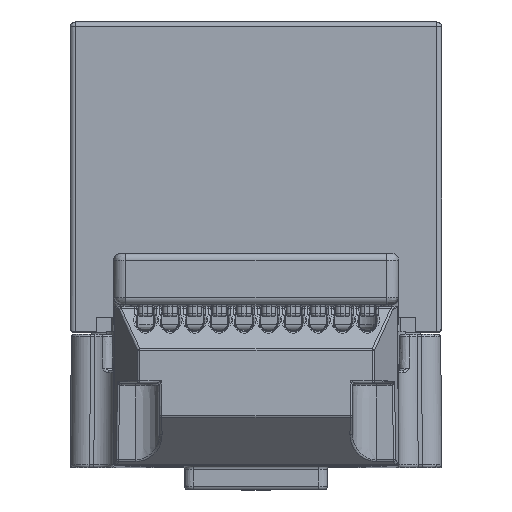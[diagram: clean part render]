
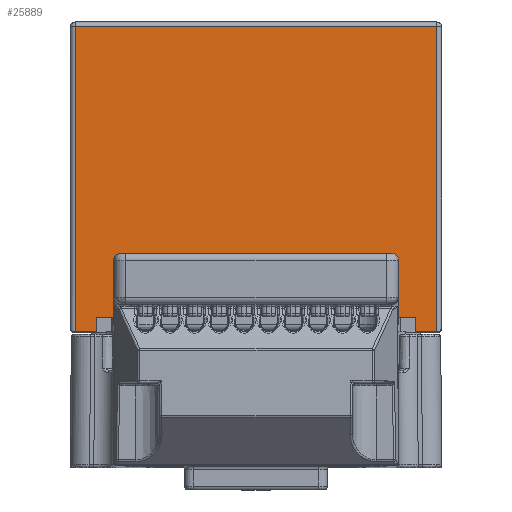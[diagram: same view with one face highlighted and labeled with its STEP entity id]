
A CAD part, top view. The second image highlights one B-rep face of the part: STEP entity #25889.
In plain terms, the highlighted planar face has unit normal (0, 0, 1) as drawn and (0, 0, -1) by its records, which use the part's own axes.
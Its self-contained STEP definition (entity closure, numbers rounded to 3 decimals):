
#336 = CARTESIAN_POINT ( 'NONE',  ( 7.68, 0., 0. ) ) ;
#965 = VECTOR ( 'NONE', #20914, 1000. ) ;
#4274 = LINE ( 'NONE', #19458, #39414 ) ;
#4732 = ORIENTED_EDGE ( 'NONE', *, *, #47329, .F. ) ;
#4908 = VECTOR ( 'NONE', #24649, 1000. ) ;
#7297 = LINE ( 'NONE', #336, #25683 ) ;
#11437 = EDGE_CURVE ( 'NONE', #72693, #12373, #71923, .T. ) ;
#12373 = VERTEX_POINT ( 'NONE', #15379 ) ;
#12499 = EDGE_CURVE ( 'NONE', #53976, #67898, #38665, .T. ) ;
#12990 = PLANE ( 'NONE',  #76083 ) ;
#14403 = ORIENTED_EDGE ( 'NONE', *, *, #25804, .T. ) ;
#14582 = VERTEX_POINT ( 'NONE', #77823 ) ;
#15379 = CARTESIAN_POINT ( 'NONE',  ( 7.48, 0., 0. ) ) ;
#16704 = CARTESIAN_POINT ( 'NONE',  ( -6.6, 0.6, 0. ) ) ;
#16941 = ORIENTED_EDGE ( 'NONE', *, *, #54331, .F. ) ;
#17001 = LINE ( 'NONE', #69205, #63817 ) ;
#17492 = CARTESIAN_POINT ( 'NONE',  ( -7.48, 0., 0. ) ) ;
#18833 = DIRECTION ( 'NONE',  ( 1., 0., 0. ) ) ;
#19448 = LINE ( 'NONE', #27431, #965 ) ;
#19458 = CARTESIAN_POINT ( 'NONE',  ( 7.68, 0., 0. ) ) ;
#19472 = DIRECTION ( 'NONE',  ( 0., 0., -1. ) ) ;
#20813 = EDGE_LOOP ( 'NONE', ( #16941, #53395, #14403, #73839, #76969, #4732, #80978, #41569 ) ) ;
#20914 = DIRECTION ( 'NONE',  ( 0., -1., 0. ) ) ;
#24200 = CARTESIAN_POINT ( 'NONE',  ( 7.48, 0., 0. ) ) ;
#24649 = DIRECTION ( 'NONE',  ( 0., 1., 0. ) ) ;
#25431 = DIRECTION ( 'NONE',  ( 1., 0., 0. ) ) ;
#25683 = VECTOR ( 'NONE', #18833, 1000. ) ;
#25804 = EDGE_CURVE ( 'NONE', #14582, #72693, #37699, .T. ) ;
#25889 = ADVANCED_FACE ( 'NONE', ( #76734 ), #12990, .T. ) ;
#26235 = CARTESIAN_POINT ( 'NONE',  ( 7.68, 12.62, 0. ) ) ;
#27431 = CARTESIAN_POINT ( 'NONE',  ( -6.6, 0.6, 0. ) ) ;
#30025 = CARTESIAN_POINT ( 'NONE',  ( 7.48, 12.62, 0. ) ) ;
#37699 = LINE ( 'NONE', #26235, #38720 ) ;
#37876 = VECTOR ( 'NONE', #44424, 1000. ) ;
#38665 = LINE ( 'NONE', #16704, #61133 ) ;
#38720 = VECTOR ( 'NONE', #44852, 1000. ) ;
#39414 = VECTOR ( 'NONE', #25431, 1000. ) ;
#40638 = EDGE_CURVE ( 'NONE', #64418, #12373, #4274, .T. ) ;
#41569 = ORIENTED_EDGE ( 'NONE', *, *, #73387, .T. ) ;
#42388 = CARTESIAN_POINT ( 'NONE',  ( 6.6, 0.6, 0. ) ) ;
#44424 = DIRECTION ( 'NONE',  ( 0., -1., 0. ) ) ;
#44852 = DIRECTION ( 'NONE',  ( 1., 0., 0. ) ) ;
#47329 = EDGE_CURVE ( 'NONE', #67898, #64418, #17001, .T. ) ;
#51182 = VERTEX_POINT ( 'NONE', #17492 ) ;
#51551 = DIRECTION ( 'NONE',  ( 0., -1., 0. ) ) ;
#53028 = DIRECTION ( 'NONE',  ( 1., 0., 0. ) ) ;
#53395 = ORIENTED_EDGE ( 'NONE', *, *, #72239, .T. ) ;
#53976 = VERTEX_POINT ( 'NONE', #57696 ) ;
#54331 = EDGE_CURVE ( 'NONE', #51182, #70330, #7297, .T. ) ;
#57696 = CARTESIAN_POINT ( 'NONE',  ( -6.6, 0.6, 0. ) ) ;
#60547 = LINE ( 'NONE', #73783, #4908 ) ;
#61133 = VECTOR ( 'NONE', #53028, 1000. ) ;
#63817 = VECTOR ( 'NONE', #51551, 1000. ) ;
#64418 = VERTEX_POINT ( 'NONE', #71640 ) ;
#67898 = VERTEX_POINT ( 'NONE', #42388 ) ;
#68789 = DIRECTION ( 'NONE',  ( -1., 0., 0. ) ) ;
#69053 = CARTESIAN_POINT ( 'NONE',  ( 0., 0., 0. ) ) ;
#69205 = CARTESIAN_POINT ( 'NONE',  ( 6.6, 0.6, 0. ) ) ;
#70075 = CARTESIAN_POINT ( 'NONE',  ( -6.6, 0., 0. ) ) ;
#70330 = VERTEX_POINT ( 'NONE', #70075 ) ;
#71640 = CARTESIAN_POINT ( 'NONE',  ( 6.6, 0., 0. ) ) ;
#71923 = LINE ( 'NONE', #24200, #37876 ) ;
#72239 = EDGE_CURVE ( 'NONE', #51182, #14582, #60547, .T. ) ;
#72693 = VERTEX_POINT ( 'NONE', #30025 ) ;
#73387 = EDGE_CURVE ( 'NONE', #53976, #70330, #19448, .T. ) ;
#73783 = CARTESIAN_POINT ( 'NONE',  ( -7.48, 12.82, 0. ) ) ;
#73839 = ORIENTED_EDGE ( 'NONE', *, *, #11437, .T. ) ;
#76083 = AXIS2_PLACEMENT_3D ( 'NONE', #69053, #19472, #68789 ) ;
#76734 = FACE_OUTER_BOUND ( 'NONE', #20813, .T. ) ;
#76969 = ORIENTED_EDGE ( 'NONE', *, *, #40638, .F. ) ;
#77823 = CARTESIAN_POINT ( 'NONE',  ( -7.48, 12.62, 0. ) ) ;
#80978 = ORIENTED_EDGE ( 'NONE', *, *, #12499, .F. ) ;
